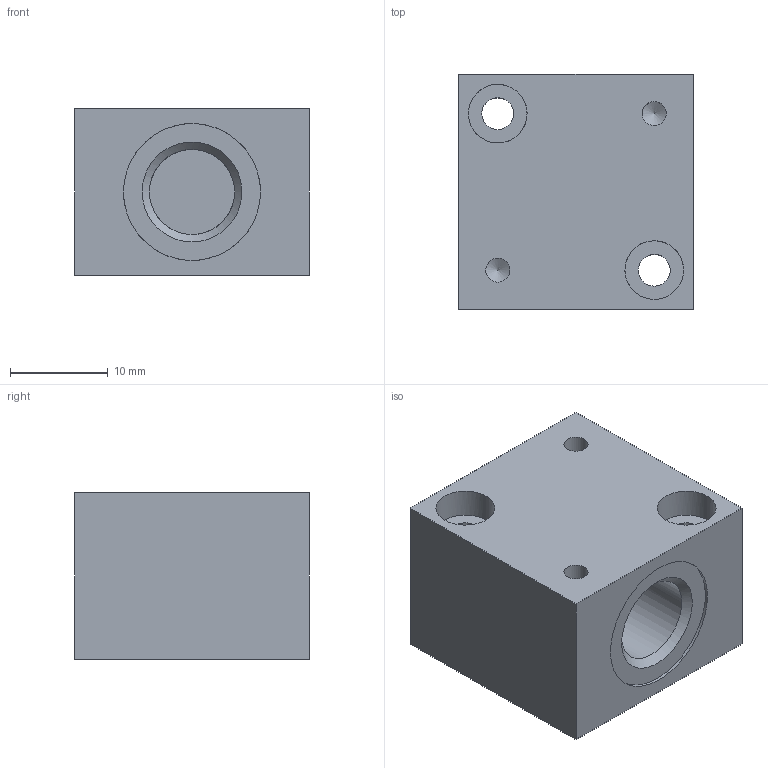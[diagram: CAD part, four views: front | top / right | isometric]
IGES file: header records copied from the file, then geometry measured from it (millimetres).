
Global section: file name: 305_90_18; native system: Autodesk Inventor 2014; preprocessor: unknown; author: C. Airoldi; date: 20161003.120434; units: millimetre
Bounding box: 24 x 24 x 17 mm (x, y, z)
Volume: 8182.9 mm3; surface area: 3771.1 mm2
Topology: 1 solids, 1 shells, 30 faces, 80 edges, 58 vertices
Faces by surface type: bspline 30
